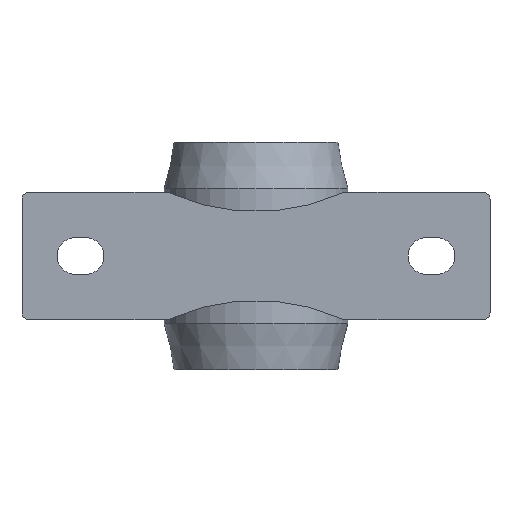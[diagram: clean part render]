
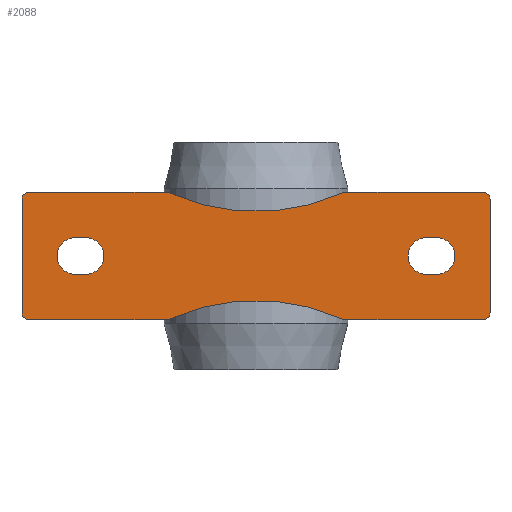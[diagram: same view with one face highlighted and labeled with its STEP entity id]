
A CAD part, front view. The second image highlights one B-rep face of the part: STEP entity #2088.
In plain terms, the highlighted planar face has unit normal (0, -1, 0).
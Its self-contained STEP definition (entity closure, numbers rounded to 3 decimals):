
#109=FACE_BOUND('',#318,.T.);
#110=FACE_BOUND('',#319,.T.);
#134=PLANE('',#2317);
#198=FACE_OUTER_BOUND('',#317,.T.);
#317=EDGE_LOOP('',(#1364,#1365,#1366,#1367,#1368,#1369,#1370,#1371,#1372,
#1373,#1374,#1375));
#318=EDGE_LOOP('',(#1376,#1377,#1378,#1379));
#319=EDGE_LOOP('',(#1380,#1381,#1382,#1383));
#483=LINE('',#3260,#612);
#484=LINE('',#3264,#613);
#485=LINE('',#3268,#614);
#486=LINE('',#3272,#615);
#487=LINE('',#3276,#616);
#488=LINE('',#3279,#617);
#489=LINE('',#3284,#618);
#490=LINE('',#3287,#619);
#491=LINE('',#3292,#620);
#492=LINE('',#3295,#621);
#612=VECTOR('',#2583,10.);
#613=VECTOR('',#2586,10.);
#614=VECTOR('',#2589,10.);
#615=VECTOR('',#2592,10.);
#616=VECTOR('',#2595,10.);
#617=VECTOR('',#2598,10.);
#618=VECTOR('',#2601,10.);
#619=VECTOR('',#2604,10.);
#620=VECTOR('',#2607,10.);
#621=VECTOR('',#2610,10.);
#742=CIRCLE('',#2318,2.);
#743=CIRCLE('',#2319,63.);
#744=CIRCLE('',#2320,2.);
#745=CIRCLE('',#2321,2.);
#746=CIRCLE('',#2322,63.);
#747=CIRCLE('',#2323,2.);
#748=CIRCLE('',#2324,5.5);
#749=CIRCLE('',#2325,5.5);
#750=CIRCLE('',#2326,5.5);
#751=CIRCLE('',#2327,5.5);
#854=VERTEX_POINT('',#3256);
#855=VERTEX_POINT('',#3257);
#856=VERTEX_POINT('',#3259);
#857=VERTEX_POINT('',#3261);
#858=VERTEX_POINT('',#3263);
#859=VERTEX_POINT('',#3265);
#860=VERTEX_POINT('',#3267);
#861=VERTEX_POINT('',#3269);
#862=VERTEX_POINT('',#3271);
#863=VERTEX_POINT('',#3273);
#864=VERTEX_POINT('',#3275);
#865=VERTEX_POINT('',#3277);
#866=VERTEX_POINT('',#3280);
#867=VERTEX_POINT('',#3281);
#868=VERTEX_POINT('',#3283);
#869=VERTEX_POINT('',#3285);
#870=VERTEX_POINT('',#3288);
#871=VERTEX_POINT('',#3289);
#872=VERTEX_POINT('',#3291);
#873=VERTEX_POINT('',#3293);
#1060=EDGE_CURVE('',#854,#855,#742,.T.);
#1061=EDGE_CURVE('',#854,#856,#483,.T.);
#1062=EDGE_CURVE('',#856,#857,#743,.T.);
#1063=EDGE_CURVE('',#857,#858,#484,.T.);
#1064=EDGE_CURVE('',#859,#858,#744,.T.);
#1065=EDGE_CURVE('',#859,#860,#485,.T.);
#1066=EDGE_CURVE('',#861,#860,#745,.T.);
#1067=EDGE_CURVE('',#862,#861,#486,.T.);
#1068=EDGE_CURVE('',#862,#863,#746,.T.);
#1069=EDGE_CURVE('',#864,#863,#487,.T.);
#1070=EDGE_CURVE('',#865,#864,#747,.T.);
#1071=EDGE_CURVE('',#865,#855,#488,.T.);
#1072=EDGE_CURVE('',#866,#867,#748,.T.);
#1073=EDGE_CURVE('',#867,#868,#489,.T.);
#1074=EDGE_CURVE('',#868,#869,#749,.T.);
#1075=EDGE_CURVE('',#869,#866,#490,.T.);
#1076=EDGE_CURVE('',#870,#871,#750,.T.);
#1077=EDGE_CURVE('',#871,#872,#491,.T.);
#1078=EDGE_CURVE('',#872,#873,#751,.T.);
#1079=EDGE_CURVE('',#873,#870,#492,.T.);
#1364=ORIENTED_EDGE('',*,*,#1060,.F.);
#1365=ORIENTED_EDGE('',*,*,#1061,.T.);
#1366=ORIENTED_EDGE('',*,*,#1062,.T.);
#1367=ORIENTED_EDGE('',*,*,#1063,.T.);
#1368=ORIENTED_EDGE('',*,*,#1064,.F.);
#1369=ORIENTED_EDGE('',*,*,#1065,.T.);
#1370=ORIENTED_EDGE('',*,*,#1066,.F.);
#1371=ORIENTED_EDGE('',*,*,#1067,.F.);
#1372=ORIENTED_EDGE('',*,*,#1068,.T.);
#1373=ORIENTED_EDGE('',*,*,#1069,.F.);
#1374=ORIENTED_EDGE('',*,*,#1070,.F.);
#1375=ORIENTED_EDGE('',*,*,#1071,.T.);
#1376=ORIENTED_EDGE('',*,*,#1072,.T.);
#1377=ORIENTED_EDGE('',*,*,#1073,.T.);
#1378=ORIENTED_EDGE('',*,*,#1074,.T.);
#1379=ORIENTED_EDGE('',*,*,#1075,.T.);
#1380=ORIENTED_EDGE('',*,*,#1076,.T.);
#1381=ORIENTED_EDGE('',*,*,#1077,.T.);
#1382=ORIENTED_EDGE('',*,*,#1078,.T.);
#1383=ORIENTED_EDGE('',*,*,#1079,.T.);
#2088=ADVANCED_FACE('',(#198,#109,#110),#134,.F.);
#2317=AXIS2_PLACEMENT_3D('',#3255,#2579,#2580);
#2318=AXIS2_PLACEMENT_3D('',#3258,#2581,#2582);
#2319=AXIS2_PLACEMENT_3D('',#3262,#2584,#2585);
#2320=AXIS2_PLACEMENT_3D('',#3266,#2587,#2588);
#2321=AXIS2_PLACEMENT_3D('',#3270,#2590,#2591);
#2322=AXIS2_PLACEMENT_3D('',#3274,#2593,#2594);
#2323=AXIS2_PLACEMENT_3D('',#3278,#2596,#2597);
#2324=AXIS2_PLACEMENT_3D('',#3282,#2599,#2600);
#2325=AXIS2_PLACEMENT_3D('',#3286,#2602,#2603);
#2326=AXIS2_PLACEMENT_3D('',#3290,#2605,#2606);
#2327=AXIS2_PLACEMENT_3D('',#3294,#2608,#2609);
#2579=DIRECTION('center_axis',(0.,1.,0.));
#2580=DIRECTION('ref_axis',(0.,0.,1.));
#2581=DIRECTION('center_axis',(0.,1.,0.));
#2582=DIRECTION('ref_axis',(-0.707,0.,-0.707));
#2583=DIRECTION('',(1.,0.,0.));
#2584=DIRECTION('center_axis',(0.,1.,0.));
#2585=DIRECTION('ref_axis',(1.,0.,0.));
#2586=DIRECTION('',(1.,0.,0.));
#2587=DIRECTION('center_axis',(0.,1.,0.));
#2588=DIRECTION('ref_axis',(0.707,0.,-0.707));
#2589=DIRECTION('',(0.,0.,1.));
#2590=DIRECTION('center_axis',(0.,1.,0.));
#2591=DIRECTION('ref_axis',(0.707,0.,0.707));
#2592=DIRECTION('',(1.,0.,0.));
#2593=DIRECTION('center_axis',(0.,1.,0.));
#2594=DIRECTION('ref_axis',(1.,0.,0.));
#2595=DIRECTION('',(1.,0.,0.));
#2596=DIRECTION('center_axis',(0.,1.,0.));
#2597=DIRECTION('ref_axis',(-0.707,0.,0.707));
#2598=DIRECTION('',(0.,0.,-1.));
#2599=DIRECTION('center_axis',(0.,1.,0.));
#2600=DIRECTION('ref_axis',(0.,0.,1.));
#2601=DIRECTION('',(1.,0.,0.));
#2602=DIRECTION('center_axis',(0.,1.,0.));
#2603=DIRECTION('ref_axis',(0.,0.,-1.));
#2604=DIRECTION('',(-1.,0.,0.));
#2605=DIRECTION('center_axis',(0.,1.,0.));
#2606=DIRECTION('ref_axis',(0.,0.,1.));
#2607=DIRECTION('',(-1.,0.,0.));
#2608=DIRECTION('center_axis',(0.,1.,0.));
#2609=DIRECTION('ref_axis',(0.,0.,-1.));
#2610=DIRECTION('',(1.,0.,0.));
#3255=CARTESIAN_POINT('Origin',(-35.,-36.5,0.));
#3256=CARTESIAN_POINT('',(-68.,-36.5,-19.));
#3257=CARTESIAN_POINT('',(-70.,-36.5,-17.));
#3258=CARTESIAN_POINT('Origin',(-68.,-36.5,-17.));
#3259=CARTESIAN_POINT('',(-26.295,-36.5,-19.));
#3260=CARTESIAN_POINT('',(-70.,-36.5,-19.));
#3261=CARTESIAN_POINT('',(26.295,-36.5,-19.));
#3262=CARTESIAN_POINT('Origin',(0.,-36.5,-76.25));
#3263=CARTESIAN_POINT('',(68.,-36.5,-19.));
#3264=CARTESIAN_POINT('',(-70.,-36.5,-19.));
#3265=CARTESIAN_POINT('',(70.,-36.5,-17.));
#3266=CARTESIAN_POINT('Origin',(68.,-36.5,-17.));
#3267=CARTESIAN_POINT('',(70.,-36.5,17.));
#3268=CARTESIAN_POINT('',(70.,-36.5,0.));
#3269=CARTESIAN_POINT('',(68.,-36.5,19.));
#3270=CARTESIAN_POINT('Origin',(68.,-36.5,17.));
#3271=CARTESIAN_POINT('',(26.295,-36.5,19.));
#3272=CARTESIAN_POINT('',(-10.5,-36.5,19.));
#3273=CARTESIAN_POINT('',(-26.295,-36.5,19.));
#3274=CARTESIAN_POINT('Origin',(0.,-36.5,76.25));
#3275=CARTESIAN_POINT('',(-68.,-36.5,19.));
#3276=CARTESIAN_POINT('',(-10.5,-36.5,19.));
#3277=CARTESIAN_POINT('',(-70.,-36.5,17.));
#3278=CARTESIAN_POINT('Origin',(-68.,-36.5,17.));
#3279=CARTESIAN_POINT('',(-70.,-36.5,0.));
#3280=CARTESIAN_POINT('',(51.,-36.5,-5.5));
#3281=CARTESIAN_POINT('',(51.,-36.5,5.5));
#3282=CARTESIAN_POINT('Origin',(51.,-36.5,0.));
#3283=CARTESIAN_POINT('',(54.,-36.5,5.5));
#3284=CARTESIAN_POINT('',(9.5,-36.5,5.5));
#3285=CARTESIAN_POINT('',(54.,-36.5,-5.5));
#3286=CARTESIAN_POINT('Origin',(54.,-36.5,0.));
#3287=CARTESIAN_POINT('',(8.,-36.5,-5.5));
#3288=CARTESIAN_POINT('',(-51.,-36.5,5.5));
#3289=CARTESIAN_POINT('',(-51.,-36.5,-5.5));
#3290=CARTESIAN_POINT('Origin',(-51.,-36.5,0.));
#3291=CARTESIAN_POINT('',(-54.,-36.5,-5.5));
#3292=CARTESIAN_POINT('',(-44.5,-36.5,-5.5));
#3293=CARTESIAN_POINT('',(-54.,-36.5,5.5));
#3294=CARTESIAN_POINT('Origin',(-54.,-36.5,0.));
#3295=CARTESIAN_POINT('',(-43.,-36.5,5.5));
